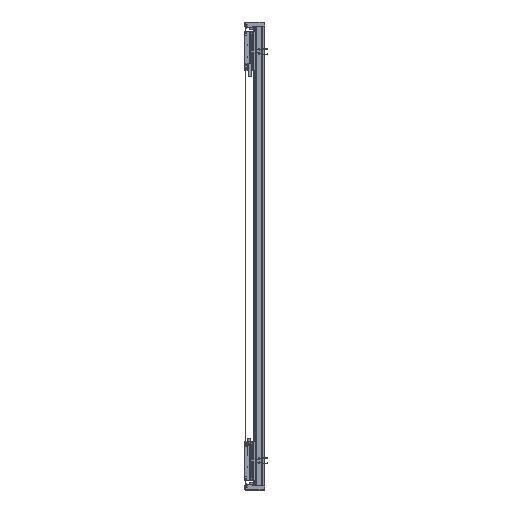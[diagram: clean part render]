
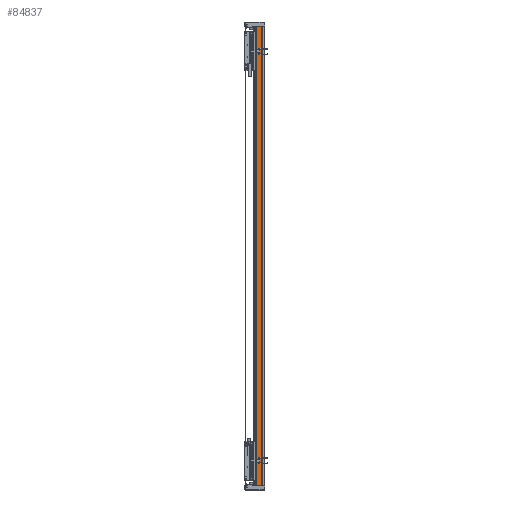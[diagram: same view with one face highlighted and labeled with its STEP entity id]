
A CAD part, left-side view. The second image highlights one B-rep face of the part: STEP entity #84837.
In plain terms, the highlighted planar face has unit normal (-1, 0, 0).
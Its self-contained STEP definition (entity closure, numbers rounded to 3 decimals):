
#9290 = VERTEX_POINT ( 'NONE', #125890 ) ;
#18714 = LINE ( 'NONE', #126517, #55444 ) ;
#31026 = VECTOR ( 'NONE', #62635, 1000. ) ;
#33356 = ORIENTED_EDGE ( 'NONE', *, *, #97023, .F. ) ;
#39619 = CARTESIAN_POINT ( 'NONE',  ( -82.5, 14.45, 1110. ) ) ;
#42636 = CARTESIAN_POINT ( 'NONE',  ( -82.5, 36.95, 1110. ) ) ;
#44466 = DIRECTION ( 'NONE',  ( 1., 0., 0. ) ) ;
#45699 = ORIENTED_EDGE ( 'NONE', *, *, #92186, .T. ) ;
#54184 = DIRECTION ( 'NONE',  ( 0., -1., 0. ) ) ;
#54959 = CARTESIAN_POINT ( 'NONE',  ( -82.5, 14.45, -1110. ) ) ;
#55444 = VECTOR ( 'NONE', #127147, 1000. ) ;
#57686 = DIRECTION ( 'NONE',  ( 0., 0., -1. ) ) ;
#58322 = LINE ( 'NONE', #39619, #98327 ) ;
#62016 = LINE ( 'NONE', #42636, #31026 ) ;
#62635 = DIRECTION ( 'NONE',  ( 0., -1., 0. ) ) ;
#67894 = VERTEX_POINT ( 'NONE', #97939 ) ;
#68394 = VERTEX_POINT ( 'NONE', #96589 ) ;
#69065 = EDGE_CURVE ( 'NONE', #67894, #9290, #62016, .T. ) ;
#69917 = VECTOR ( 'NONE', #54184, 1000. ) ;
#70446 = EDGE_CURVE ( 'NONE', #67894, #68394, #18714, .T. ) ;
#84837 = ADVANCED_FACE ( 'NONE', ( #121353 ), #101971, .F. ) ;
#92186 = EDGE_CURVE ( 'NONE', #68394, #106261, #116110, .T. ) ;
#95444 = CARTESIAN_POINT ( 'NONE',  ( -82.5, 36.95, -1110. ) ) ;
#96589 = CARTESIAN_POINT ( 'NONE',  ( -82.5, 36.95, -1110. ) ) ;
#97023 = EDGE_CURVE ( 'NONE', #9290, #106261, #58322, .T. ) ;
#97939 = CARTESIAN_POINT ( 'NONE',  ( -82.5, 36.95, 1110. ) ) ;
#98327 = VECTOR ( 'NONE', #57686, 1000. ) ;
#100801 = EDGE_LOOP ( 'NONE', ( #45699, #33356, #127078, #124007 ) ) ;
#101971 = PLANE ( 'NONE',  #105809 ) ;
#102609 = CARTESIAN_POINT ( 'NONE',  ( -82.5, 36.95, 1110. ) ) ;
#105809 = AXIS2_PLACEMENT_3D ( 'NONE', #102609, #44466, #123895 ) ;
#106261 = VERTEX_POINT ( 'NONE', #54959 ) ;
#116110 = LINE ( 'NONE', #95444, #69917 ) ;
#121353 = FACE_OUTER_BOUND ( 'NONE', #100801, .T. ) ;
#123895 = DIRECTION ( 'NONE',  ( 0., 1., 0. ) ) ;
#124007 = ORIENTED_EDGE ( 'NONE', *, *, #70446, .T. ) ;
#125890 = CARTESIAN_POINT ( 'NONE',  ( -82.5, 14.45, 1110. ) ) ;
#126517 = CARTESIAN_POINT ( 'NONE',  ( -82.5, 36.95, 1110. ) ) ;
#127078 = ORIENTED_EDGE ( 'NONE', *, *, #69065, .F. ) ;
#127147 = DIRECTION ( 'NONE',  ( 0., 0., -1. ) ) ;
